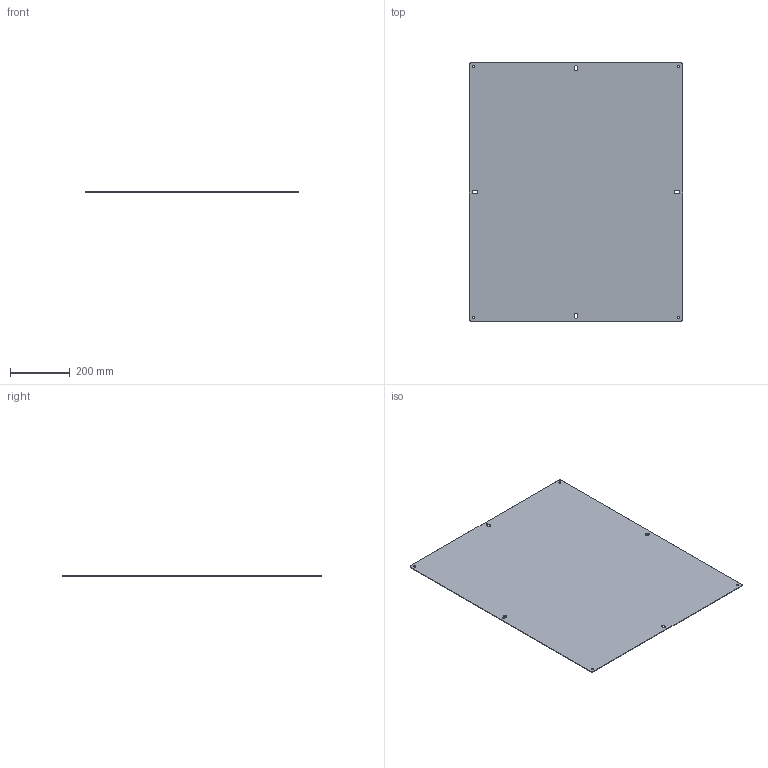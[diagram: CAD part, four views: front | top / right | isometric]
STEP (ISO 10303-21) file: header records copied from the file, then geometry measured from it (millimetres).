
FILE_DESCRIPTION((''),'2;1');
FILE_NAME('MODEL-085_ASM','2013-04-01T',('david'),('SAGINAW CONTROL & ENGINEERING'),'PRO/ENGINEER BY PARAMETRIC TECHNOLOGY CORPORATION, 2012070','PRO/ENGINEER BY PARAMETRIC TECHNOLOGY CORPORATION, 2012070','');
FILE_SCHEMA(('AUTOMOTIVE_DESIGN { 1 0 10303 214 1 1 1 1 }'));
Length unit declared in the file: inch
Products named in the file (2): MODEL-085-SUBPNL; MODEL-085_ASM
Assembly tree (1 placements, depth 2):
  MODEL-085_ASM
    MODEL-085-SUBPNL
Bounding box: 711.2 x 863.6 x 1.91 mm (x, y, z)
Volume: 1168508.3 mm3; surface area: 1233291.2 mm2
Topology: 1 solids, 1 shells, 42 faces, 120 edges, 80 vertices
Faces by surface type: cylinder 28, plane 14
Entity records: 1541 total; most frequent: DIRECTION 266, CARTESIAN_POINT 249, ORIENTED_EDGE 240, EDGE_CURVE 120, AXIS2_PLACEMENT_3D 101, VERTEX_POINT 80, VECTOR 64, LINE 64
